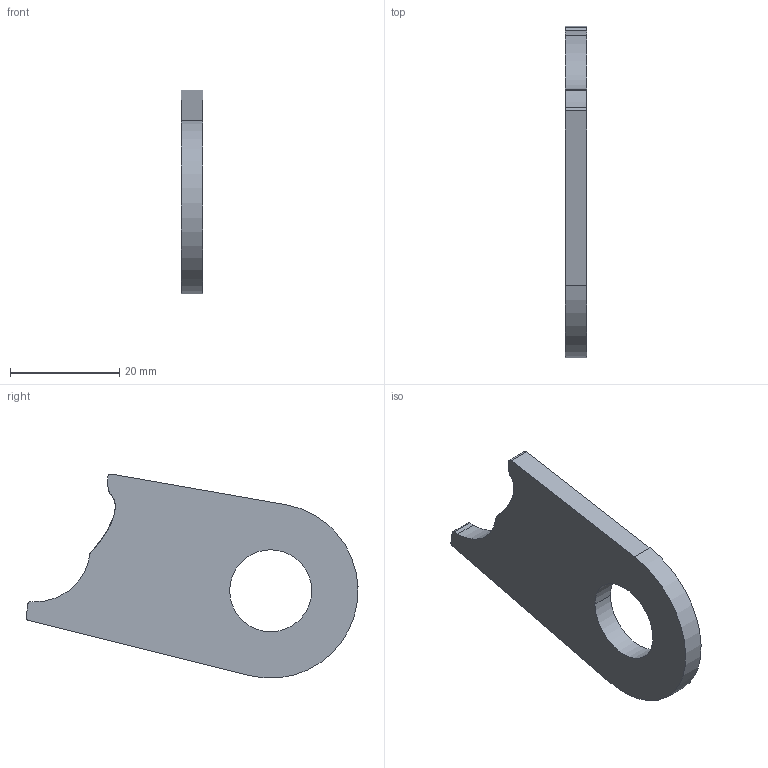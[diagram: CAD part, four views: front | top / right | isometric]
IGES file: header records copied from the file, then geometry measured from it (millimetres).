
Start section: START RECORD GO HERE.
Global section: file name: 20M_EN_06132 (Chape PE Gauche Haut 2).igs; native system: IBM CATIA IGES - CATIA Version 5 Release 19 ; preprocessor: CATIA Version 5 Release 19 ; author: mik75; organization: LAPTOP-SUH344G9; date: 20200110.161840; units: millimetre
Bounding box: 4 x 60.75 x 37.32 mm (x, y, z)
Surface area: 3421.9 mm2 (no closed solid volume)
Topology: 0 solids, 0 shells, 18 faces, 98 edges, 98 vertices
Faces by surface type: revolution 8, plane 6, extrusion 4
